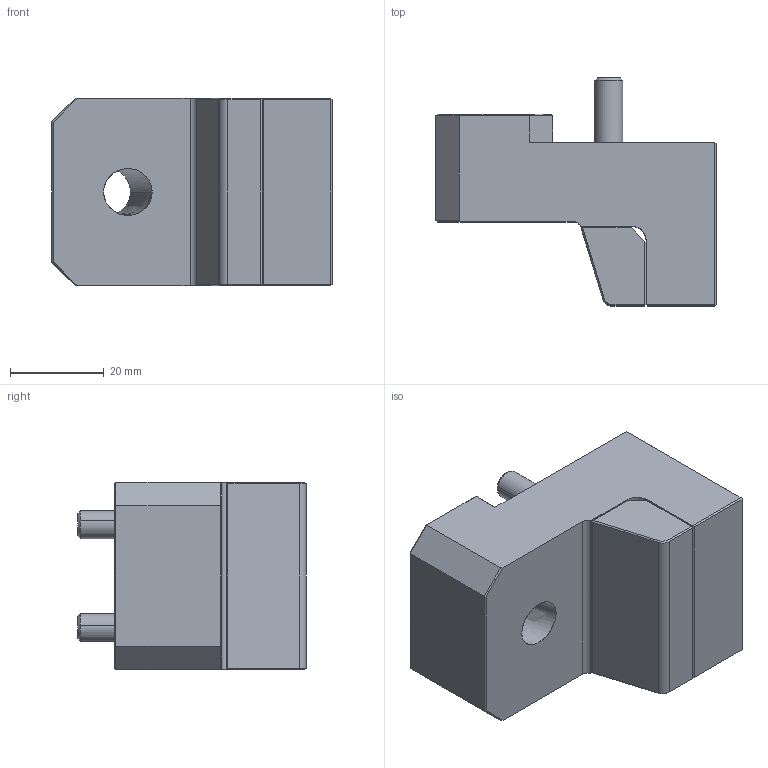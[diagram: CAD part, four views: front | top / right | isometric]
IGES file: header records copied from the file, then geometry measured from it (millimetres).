
Start section: START RECORD GO HERE.
Global section: file name: cg604035.igs; native system: DASSAULT SYSTEMES CATIA V5 R20 - www.3ds.com; preprocessor: CATIA Version 5 Release 20 ; author: Utente; organization: NB04-ASUS; date: 20201103.204814; units: millimetre
Bounding box: 60 x 48.8 x 40 mm (x, y, z)
Surface area: 19287.8 mm2 (no closed solid volume)
Topology: 0 solids, 0 shells, 241 faces, 1600 edges, 1592 vertices
Faces by surface type: plane 154, revolution 83, bspline 4
